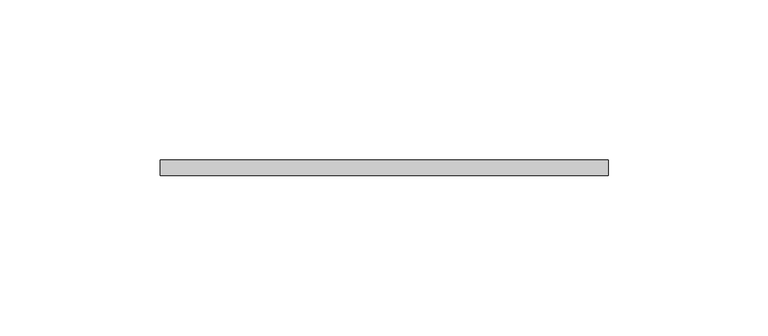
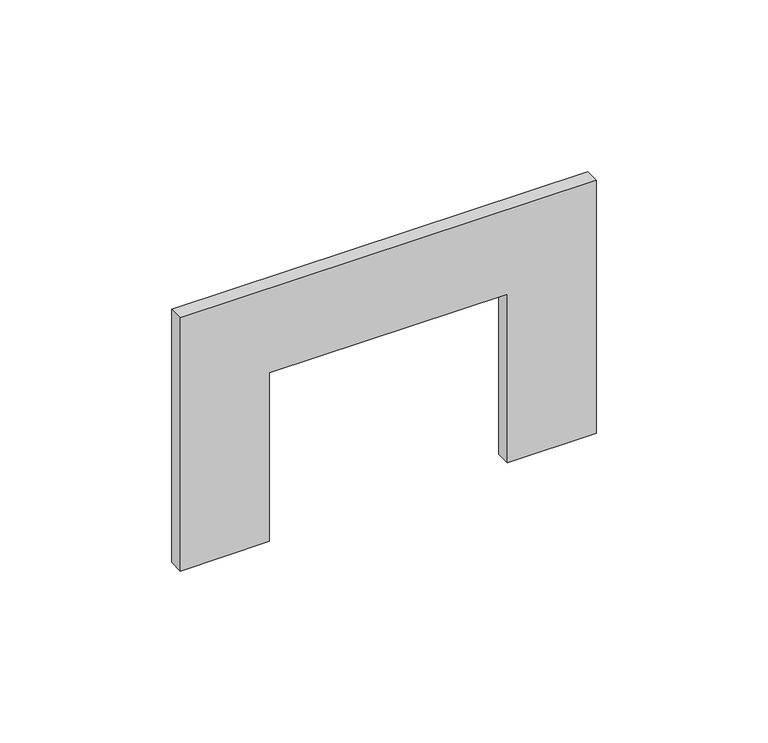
"""IFC4 building model written with IfcOpenShell, lengths in millimetres: proxy geometry, КНС_РамкаДляВводаRQM_ILC_DKC : TA-GN 60x...."""

from ifc_helpers import new_model, si_unit, frame, origin, place, context, project, spatial, polyline, outline, extrude, source, transform, mapped, element, save


def electrical_fixtures_1bab5402(model_context):
    return source(origin(), model_context, "Body", "SweptSolid", [
        extrude(outline(polyline([(90.0, -70.0), (0.0, -70.0), (0.0, -40.0), (60.0, -40.0), (60.0, 40.0), (0.0, 40.0), (0.0, 70.0), (90.0, 70.0), (90.0, -70.0)])), frame((0.0, -5.0, 0.0), z_axis=(0.0, 1.0, 0.0), x_axis=(0.0, 0.0, 1.0)), (0.0, 0.0, 1.0), 5.0),
    ])


if __name__ == "__main__":
    model = new_model("IFC4")
    model_context = context("Model", 3, world=origin())
    ifc_project = project(units=[si_unit("LENGTHUNIT", "METRE", prefix="MILLI")], contexts=[model_context])
    site = spatial("IfcSite", under=ifc_project)
    building = spatial("IfcBuilding", under=site)
    placement = place(None, origin())
    electrical_fixtures_shape = electrical_fixtures_1bab5402(model_context)
    element("IfcBuildingElementProxy", 1, Name="КНС_РамкаДляВводаRQM_ILC_DKC : TA-GN 60x...", ObjectType="КНС_РамкаДляВводаRQM_ILC_DKC : TA-GN 60x...", at=placement, inside=building, context=model_context, shape_type="MappedRepresentation", body=[
        mapped(electrical_fixtures_shape, transform((0.0, 0.0, 0.0), x_axis=(1.0, 0.0, 0.0), y_axis=(0.0, 1.0, 0.0), z_axis=(0.0, 0.0, 1.0))),
    ])
    save(model, "model.ifc")
